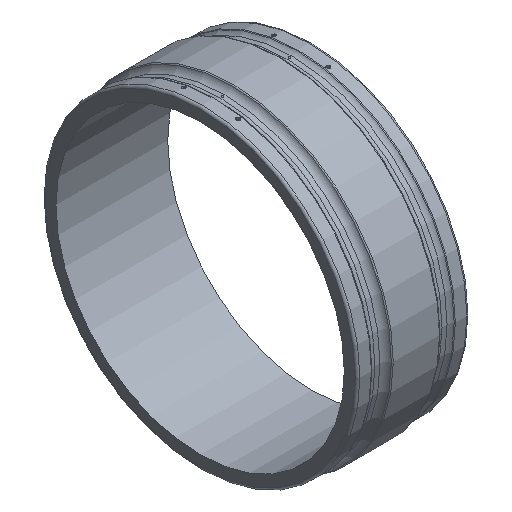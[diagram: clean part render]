
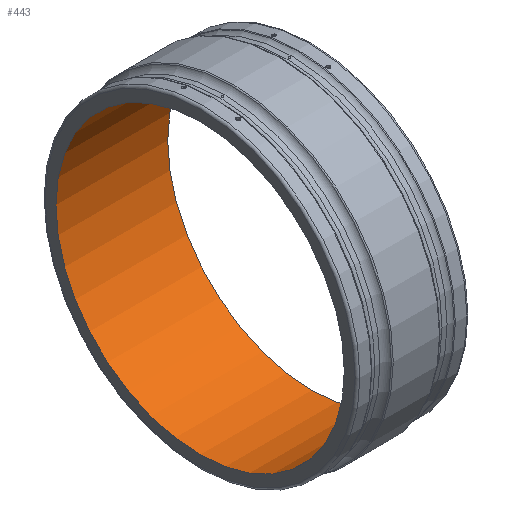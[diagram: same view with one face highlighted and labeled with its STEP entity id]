
A CAD part, isometric view. The second image highlights one B-rep face of the part: STEP entity #443.
In plain terms, the highlighted cylindrical face has radius 600 mm (diameter 1200 mm), a full revolution.
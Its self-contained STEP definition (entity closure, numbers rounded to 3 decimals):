
#49=CIRCLE('',#502,600.);
#50=CIRCLE('',#503,600.);
#84=ORIENTED_EDGE('',*,*,#167,.F.);
#85=ORIENTED_EDGE('',*,*,#168,.T.);
#167=EDGE_CURVE('',#209,#209,#49,.T.);
#168=EDGE_CURVE('',#210,#210,#50,.T.);
#209=VERTEX_POINT('',#743);
#210=VERTEX_POINT('',#745);
#262=EDGE_LOOP('',(#84));
#263=EDGE_LOOP('',(#85));
#346=FACE_BOUND('',#262,.T.);
#347=FACE_BOUND('',#263,.T.);
#426=CYLINDRICAL_SURFACE('',#501,600.);
#443=ADVANCED_FACE('',(#346,#347),#426,.F.);
#501=AXIS2_PLACEMENT_3D('',#741,#579,#580);
#502=AXIS2_PLACEMENT_3D('',#742,#581,#582);
#503=AXIS2_PLACEMENT_3D('',#744,#583,#584);
#579=DIRECTION('',(-1.,0.,0.));
#580=DIRECTION('',(0.,0.,1.));
#581=DIRECTION('',(-1.,0.,0.));
#582=DIRECTION('',(0.,0.,1.));
#583=DIRECTION('',(-1.,0.,0.));
#584=DIRECTION('',(0.,0.,1.));
#741=CARTESIAN_POINT('',(-150.,0.,0.));
#742=CARTESIAN_POINT('',(232.5,0.,0.));
#743=CARTESIAN_POINT('',(232.5,0.,600.));
#744=CARTESIAN_POINT('',(-232.5,0.,0.));
#745=CARTESIAN_POINT('',(-232.5,0.,600.));
